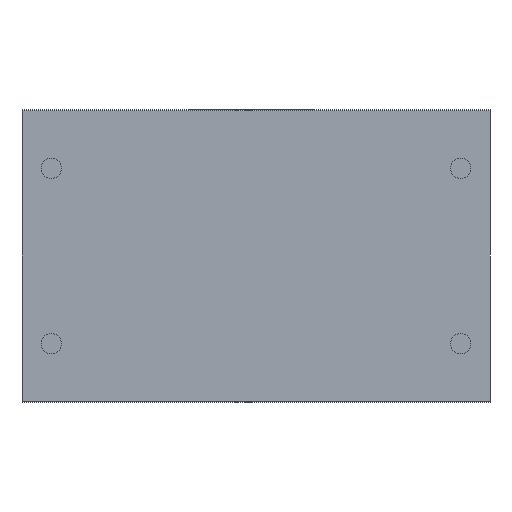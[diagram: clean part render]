
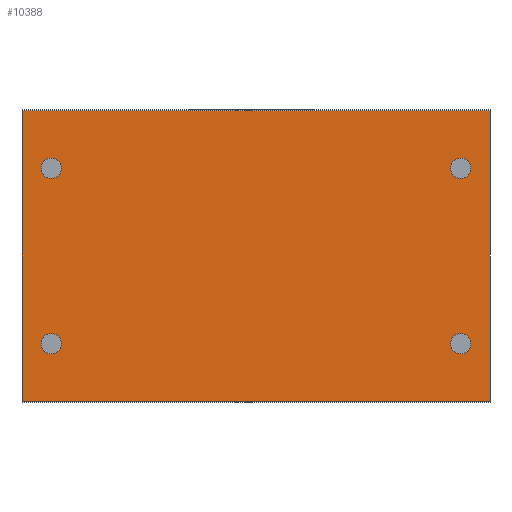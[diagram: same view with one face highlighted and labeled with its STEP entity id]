
A CAD part, front view. The second image highlights one B-rep face of the part: STEP entity #10388.
In plain terms, the highlighted planar face has unit normal (0, -1, 0).
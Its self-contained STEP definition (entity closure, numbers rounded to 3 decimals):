
#342=CIRCLE('',#10998,3.5);
#343=CIRCLE('',#10999,3.5);
#344=CIRCLE('',#11000,3.5);
#345=CIRCLE('',#11001,3.5);
#1048=ORIENTED_EDGE('',*,*,#4245,.T.);
#1049=ORIENTED_EDGE('',*,*,#4246,.F.);
#1050=ORIENTED_EDGE('',*,*,#4247,.F.);
#1051=ORIENTED_EDGE('',*,*,#4248,.F.);
#1052=ORIENTED_EDGE('',*,*,#4199,.T.);
#1053=ORIENTED_EDGE('',*,*,#4249,.F.);
#1054=ORIENTED_EDGE('',*,*,#4250,.F.);
#1055=ORIENTED_EDGE('',*,*,#4243,.T.);
#4199=EDGE_CURVE('',#5804,#5803,#6875,.T.);
#4243=EDGE_CURVE('',#5838,#5804,#6919,.T.);
#4245=EDGE_CURVE('',#5839,#5839,#342,.T.);
#4246=EDGE_CURVE('',#5840,#5840,#343,.T.);
#4247=EDGE_CURVE('',#5841,#5841,#344,.T.);
#4248=EDGE_CURVE('',#5842,#5842,#345,.T.);
#4249=EDGE_CURVE('',#5843,#5803,#6921,.T.);
#4250=EDGE_CURVE('',#5838,#5843,#6922,.T.);
#5803=VERTEX_POINT('',#15650);
#5804=VERTEX_POINT('',#15652);
#5838=VERTEX_POINT('',#15737);
#5839=VERTEX_POINT('',#15741);
#5840=VERTEX_POINT('',#15743);
#5841=VERTEX_POINT('',#15745);
#5842=VERTEX_POINT('',#15747);
#5843=VERTEX_POINT('',#15749);
#6875=LINE('',#15651,#7859);
#6919=LINE('',#15736,#7903);
#6921=LINE('',#15748,#7905);
#6922=LINE('',#15750,#7906);
#7859=VECTOR('',#12230,1000.);
#7903=VECTOR('',#12288,1000.);
#7905=VECTOR('',#12300,1000.);
#7906=VECTOR('',#12301,1000.);
#8825=EDGE_LOOP('',(#1048));
#8826=EDGE_LOOP('',(#1049));
#8827=EDGE_LOOP('',(#1050));
#8828=EDGE_LOOP('',(#1051));
#8829=EDGE_LOOP('',(#1052,#1053,#1054,#1055));
#9471=FACE_BOUND('',#8825,.T.);
#9472=FACE_BOUND('',#8826,.T.);
#9473=FACE_BOUND('',#8827,.T.);
#9474=FACE_BOUND('',#8828,.T.);
#9475=FACE_BOUND('',#8829,.T.);
#10117=PLANE('',#10997);
#10388=ADVANCED_FACE('',(#9471,#9472,#9473,#9474,#9475),#10117,.F.);
#10997=AXIS2_PLACEMENT_3D('',#15739,#12290,#12291);
#10998=AXIS2_PLACEMENT_3D('',#15740,#12292,#12293);
#10999=AXIS2_PLACEMENT_3D('',#15742,#12294,#12295);
#11000=AXIS2_PLACEMENT_3D('',#15744,#12296,#12297);
#11001=AXIS2_PLACEMENT_3D('',#15746,#12298,#12299);
#12230=DIRECTION('',(0.,0.,-1.));
#12288=DIRECTION('',(-1.,0.,0.));
#12290=DIRECTION('',(0.,1.,0.));
#12291=DIRECTION('',(0.,0.,1.));
#12292=DIRECTION('',(0.,1.,0.));
#12293=DIRECTION('',(0.,0.,1.));
#12294=DIRECTION('',(0.,-1.,0.));
#12295=DIRECTION('',(0.,0.,-1.));
#12296=DIRECTION('',(0.,-1.,0.));
#12297=DIRECTION('',(0.,0.,-1.));
#12298=DIRECTION('',(0.,-1.,0.));
#12299=DIRECTION('',(0.,0.,-1.));
#12300=DIRECTION('',(-1.,0.,0.));
#12301=DIRECTION('',(0.,0.,-1.));
#15650=CARTESIAN_POINT('',(0.,0.,-49.7));
#15651=CARTESIAN_POINT('',(0.,0.,49.7));
#15652=CARTESIAN_POINT('',(0.,0.,49.7));
#15736=CARTESIAN_POINT('',(160.,0.,49.7));
#15737=CARTESIAN_POINT('',(160.,0.,49.7));
#15739=CARTESIAN_POINT('',(160.,0.,49.7));
#15740=CARTESIAN_POINT('',(150.,0.,30.));
#15741=CARTESIAN_POINT('',(150.,0.,33.5));
#15742=CARTESIAN_POINT('',(150.,0.,-30.));
#15743=CARTESIAN_POINT('',(150.,0.,-33.5));
#15744=CARTESIAN_POINT('',(10.,0.,-30.));
#15745=CARTESIAN_POINT('',(10.,0.,-33.5));
#15746=CARTESIAN_POINT('',(10.,0.,30.));
#15747=CARTESIAN_POINT('',(10.,0.,26.5));
#15748=CARTESIAN_POINT('',(160.,0.,-49.7));
#15749=CARTESIAN_POINT('',(160.,0.,-49.7));
#15750=CARTESIAN_POINT('',(160.,0.,49.7));
